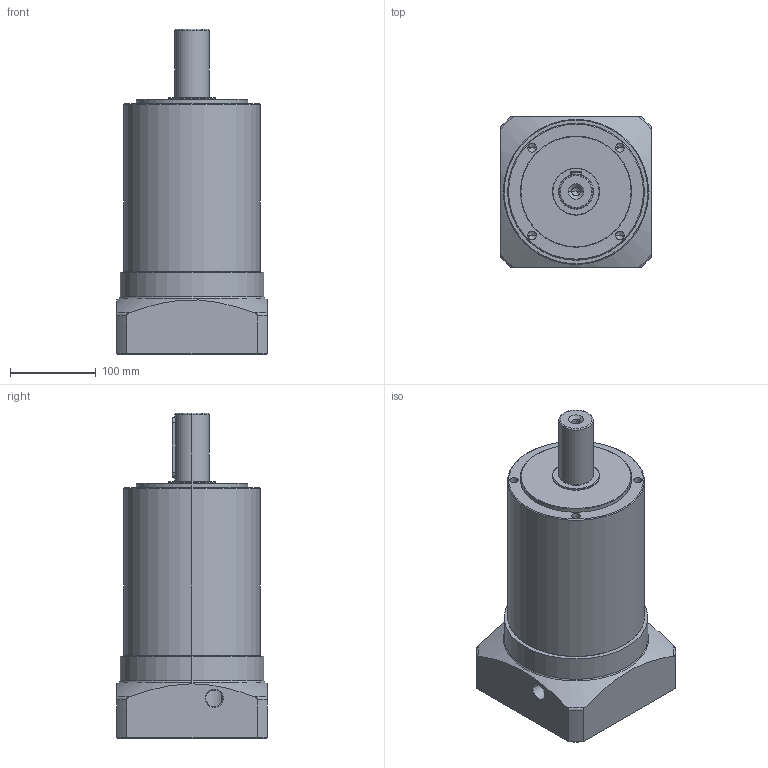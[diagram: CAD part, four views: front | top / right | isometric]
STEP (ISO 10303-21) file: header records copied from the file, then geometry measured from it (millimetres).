
FILE_DESCRIPTION (( 'STEP AP214' ), '1' );
FILE_NAME ('PL160-L3-35×80-114.3-200M12 三维零件图.STEP', '2021-08-06T06:28:47', ( 'XJJ' ), ( '' ), 'SwSTEP 2.0', 'SolidWorks 2016', '' );
FILE_SCHEMA (( 'AUTOMOTIVE_DESIGN' ));
Length unit declared in the file: millimetre
Products named in the file (3): PL160-L3-35×80-114.3-200M12 三维零件图; hexagon socket head cap screws gb_GB_FASTENER_SCREWS_HSHCS M10X16-N; PL160-L3-35×80-114.3-200M12 三维外形图
Assembly tree (2 placements, depth 2):
  PL160-L3-35×80-114.3-200M12 三维零件图
    PL160-L3-35×80-114.3-200M12 三维外形图
    hexagon socket head cap screws gb_GB_FASTENER_SCREWS_HSHCS M10X16-N
Bounding box: 176 x 176 x 380.5 mm (x, y, z)
Volume: 6269586.6 mm3; surface area: 275885.3 mm2
Topology: 2 solids, 2 shells, 178 faces, 414 edges, 240 vertices
Faces by surface type: cylinder 62, cone 48, plane 41, torus 27
Entity records: 5885 total; most frequent: CARTESIAN_POINT 1478, DIRECTION 920, ORIENTED_EDGE 788, EDGE_CURVE 394, AXIS2_PLACEMENT_3D 383, VERTEX_POINT 240, EDGE_LOOP 206, CIRCLE 200
